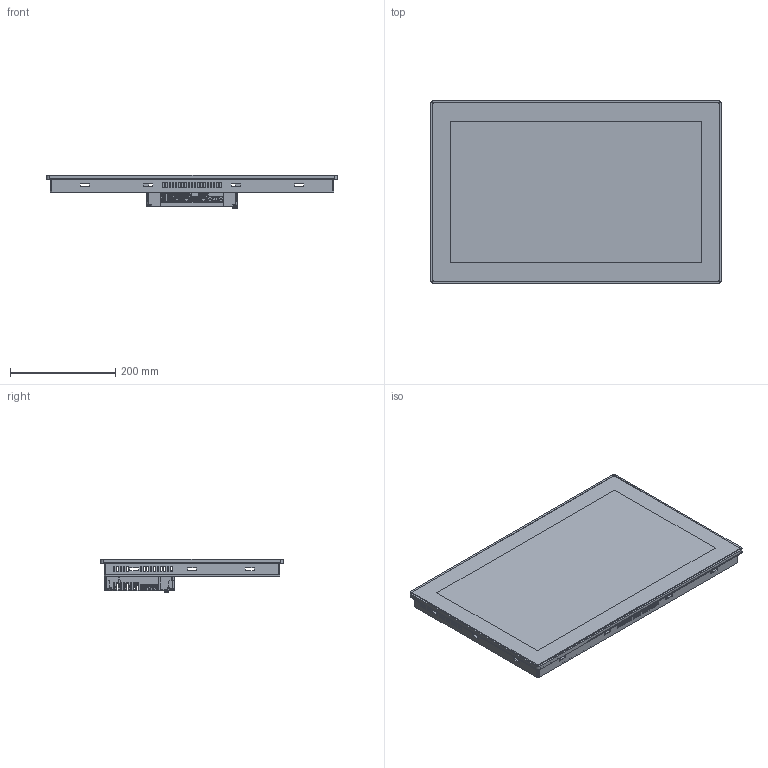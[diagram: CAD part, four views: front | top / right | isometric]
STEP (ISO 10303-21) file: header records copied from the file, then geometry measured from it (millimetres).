
FILE_DESCRIPTION (( 'STEP AP203' ), '1' );
FILE_NAME ('eX721.STEP', '2017-08-23T14:23:01', ( '' ), ( '' ), 'SwSTEP 2.0', 'SolidWorks 2016', '' );
FILE_SCHEMA (( 'CONFIG_CONTROL_DESIGN' ));
Products named in the file (1): eX721
Bounding box: 552 x 347 x 63.89 mm (x, y, z)
Surface area: 1292494.8 mm2 (no closed solid volume)
Topology: 0 solids, 34 shells, 9062 faces, 24233 edges, 15085 vertices
Faces by surface type: plane 5795, cylinder 2005, bspline 566, torus 264, cone 231, sphere 201
Entity records: 294650 total; most frequent: CARTESIAN_POINT 74882, ORIENTED_EDGE 48334, DIRECTION 41977, EDGE_CURVE 24168, LINE 17353, VECTOR 17353, VERTEX_POINT 15063, AXIS2_PLACEMENT_3D 12312
